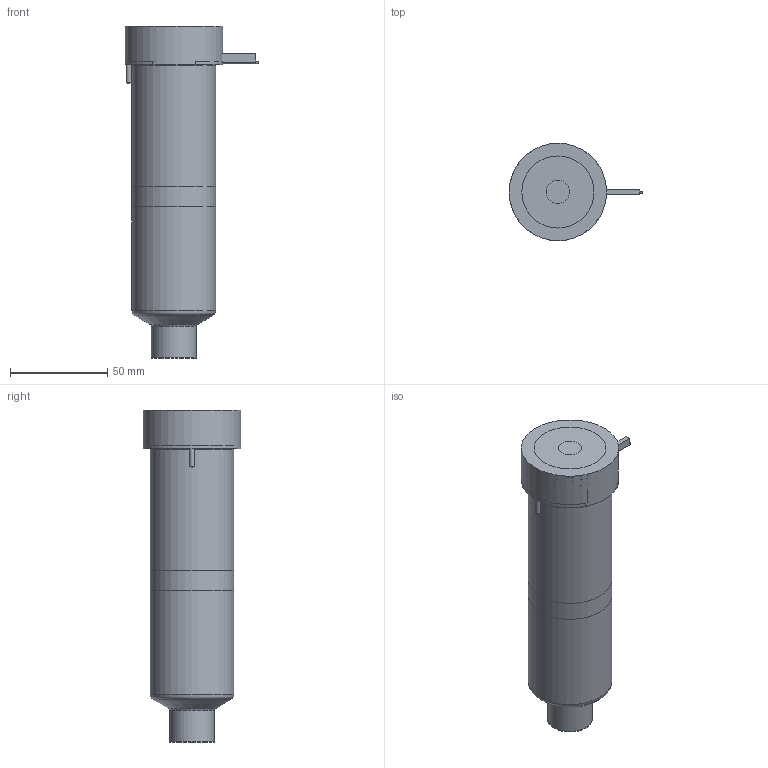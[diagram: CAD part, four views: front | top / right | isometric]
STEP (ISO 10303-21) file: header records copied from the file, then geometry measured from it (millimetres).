
FILE_DESCRIPTION(/* description */ (''),/* implementation_level */ '2;1');
FILE_NAME(/* name */ 'BXTVSN-BXIVSN-BXOVSN27145_200C_b',/* time_stamp */ '2007-01-18T10:03:29+13:00',/* author */ (''),/* organization */ (''),/* preprocessor_version */ 'ST-DEVELOPER v9',/* originating_system */ 'UGS - NX 4.0',/* authorisation */ '');
FILE_SCHEMA (('CONFIG_CONTROL_DESIGN'));
Length unit declared in the file: millimetre
Products named in the file (1): BXTVSN-BXIVSN-BXOVSN27145_200C_b
Bounding box: 68.6 x 50 x 170.4 mm (x, y, z)
Volume: 440220.9 mm3; surface area: 55164.4 mm2
Topology: 6 solids, 6 shells, 76 faces, 152 edges, 98 vertices
Faces by surface type: plane 33, cylinder 23, cone 11, torus 8, bspline 1
Full cylindrical faces by diameter (mm): 1 x3, 2.5 x2, 5 x1, 12 x1, 22.61 x1, 23.01 x2, 27.5 x1, 38.1 x1, 43 x2, 50 x1
Entity records: 2027 total; most frequent: CARTESIAN_POINT 487, DIRECTION 320, ORIENTED_EDGE 234, AXIS2_PLACEMENT_3D 141, EDGE_CURVE 117, EDGE_LOOP 114, VERTEX_POINT 92, ADVANCED_FACE 76
